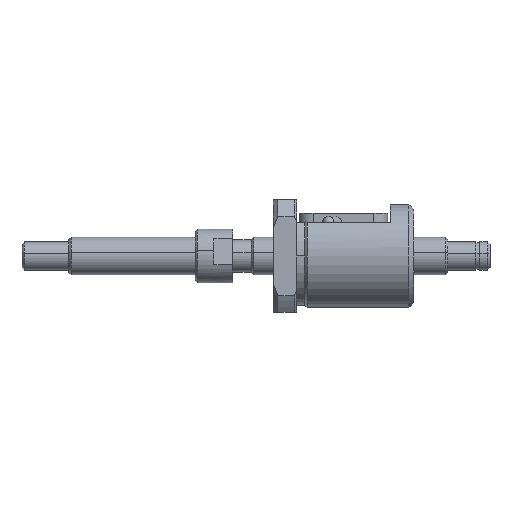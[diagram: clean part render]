
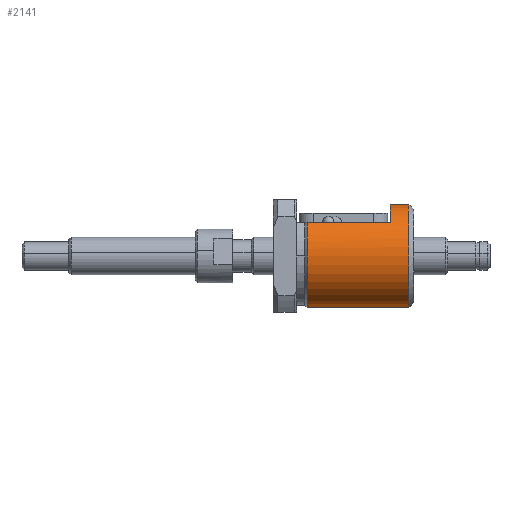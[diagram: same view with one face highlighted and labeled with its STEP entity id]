
A CAD part, front view. The second image highlights one B-rep face of the part: STEP entity #2141.
In plain terms, the highlighted cylindrical face has radius 11 mm (diameter 22 mm), a partial arc.
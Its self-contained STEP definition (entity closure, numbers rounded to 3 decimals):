
#112 = DIRECTION ( 'NONE',  ( 1., 0., 0. ) ) ;
#245 = AXIS2_PLACEMENT_3D ( 'NONE', #4056, #3909, #2032 ) ;
#277 = AXIS2_PLACEMENT_3D ( 'NONE', #2531, #596, #2568 ) ;
#518 = AXIS2_PLACEMENT_3D ( 'NONE', #2410, #1404, #1724 ) ;
#572 = CYLINDRICAL_SURFACE ( 'NONE', #518, 11. ) ;
#584 = EDGE_CURVE ( 'NONE', #3837, #1711, #1077, .T. ) ;
#596 = DIRECTION ( 'NONE',  ( 1., 0., 0. ) ) ;
#621 = CIRCLE ( 'NONE', #3519, 11. ) ;
#648 = EDGE_CURVE ( 'NONE', #1711, #1607, #3337, .T. ) ;
#688 = CARTESIAN_POINT ( 'NONE',  ( 29., 0., -11. ) ) ;
#773 = CARTESIAN_POINT ( 'NONE',  ( 25., 0., 11. ) ) ;
#788 = DIRECTION ( 'NONE',  ( -1., 0., 0. ) ) ;
#1038 = CARTESIAN_POINT ( 'NONE',  ( 29., 0., 11. ) ) ;
#1046 = CARTESIAN_POINT ( 'NONE',  ( 4.5, -8.334, 7.18 ) ) ;
#1077 = CIRCLE ( 'NONE', #277, 11. ) ;
#1155 = CARTESIAN_POINT ( 'NONE',  ( 7.234, 0., -11. ) ) ;
#1182 = CARTESIAN_POINT ( 'NONE',  ( 29., 0., 0. ) ) ;
#1257 = CIRCLE ( 'NONE', #2299, 11. ) ;
#1277 = ORIENTED_EDGE ( 'NONE', *, *, #2340, .F. ) ;
#1333 = CARTESIAN_POINT ( 'NONE',  ( 7.234, -8.334, 7.18 ) ) ;
#1404 = DIRECTION ( 'NONE',  ( -1., 0., 0. ) ) ;
#1494 = DIRECTION ( 'NONE',  ( 0., 0., -1. ) ) ;
#1512 = FACE_OUTER_BOUND ( 'NONE', #3565, .T. ) ;
#1607 = VERTEX_POINT ( 'NONE', #1155 ) ;
#1620 = CARTESIAN_POINT ( 'NONE',  ( 25., -8.334, 7.18 ) ) ;
#1690 = LINE ( 'NONE', #1046, #3416 ) ;
#1711 = VERTEX_POINT ( 'NONE', #2970 ) ;
#1721 = ORIENTED_EDGE ( 'NONE', *, *, #2146, .T. ) ;
#1724 = DIRECTION ( 'NONE',  ( 0., 0., 1. ) ) ;
#1843 = DIRECTION ( 'NONE',  ( 1., 0., 0. ) ) ;
#1905 = LINE ( 'NONE', #3805, #3509 ) ;
#1989 = EDGE_CURVE ( 'NONE', #3731, #3913, #621, .T. ) ;
#2022 = EDGE_CURVE ( 'NONE', #2124, #2978, #1257, .T. ) ;
#2032 = DIRECTION ( 'NONE',  ( 0., 1., 0. ) ) ;
#2054 = EDGE_CURVE ( 'NONE', #3731, #1607, #1905, .T. ) ;
#2124 = VERTEX_POINT ( 'NONE', #773 ) ;
#2141 = ADVANCED_FACE ( 'NONE', ( #1512 ), #572, .T. ) ;
#2146 = EDGE_CURVE ( 'NONE', #3913, #2124, #2276, .T. ) ;
#2276 = LINE ( 'NONE', #3052, #3823 ) ;
#2299 = AXIS2_PLACEMENT_3D ( 'NONE', #3743, #1843, #4054 ) ;
#2340 = EDGE_CURVE ( 'NONE', #3837, #2978, #1690, .T. ) ;
#2410 = CARTESIAN_POINT ( 'NONE',  ( 30., 0., 0. ) ) ;
#2531 = CARTESIAN_POINT ( 'NONE',  ( 7.234, 0., 0. ) ) ;
#2568 = DIRECTION ( 'NONE',  ( 0., 1., 0. ) ) ;
#2620 = ORIENTED_EDGE ( 'NONE', *, *, #1989, .T. ) ;
#2663 = DIRECTION ( 'NONE',  ( -1., 0., 0. ) ) ;
#2836 = ORIENTED_EDGE ( 'NONE', *, *, #584, .T. ) ;
#2970 = CARTESIAN_POINT ( 'NONE',  ( 7.234, -11., 0. ) ) ;
#2978 = VERTEX_POINT ( 'NONE', #1620 ) ;
#3052 = CARTESIAN_POINT ( 'NONE',  ( 30., 0., 11. ) ) ;
#3337 = CIRCLE ( 'NONE', #245, 11. ) ;
#3390 = ORIENTED_EDGE ( 'NONE', *, *, #2054, .F. ) ;
#3416 = VECTOR ( 'NONE', #112, 1000. ) ;
#3426 = DIRECTION ( 'NONE',  ( -1., 0., 0. ) ) ;
#3509 = VECTOR ( 'NONE', #2663, 1000. ) ;
#3519 = AXIS2_PLACEMENT_3D ( 'NONE', #1182, #3426, #1494 ) ;
#3565 = EDGE_LOOP ( 'NONE', ( #3390, #2620, #1721, #3714, #1277, #2836, #3617 ) ) ;
#3617 = ORIENTED_EDGE ( 'NONE', *, *, #648, .T. ) ;
#3714 = ORIENTED_EDGE ( 'NONE', *, *, #2022, .T. ) ;
#3731 = VERTEX_POINT ( 'NONE', #688 ) ;
#3743 = CARTESIAN_POINT ( 'NONE',  ( 25., 0., 0. ) ) ;
#3805 = CARTESIAN_POINT ( 'NONE',  ( 30., 0., -11. ) ) ;
#3823 = VECTOR ( 'NONE', #788, 1000. ) ;
#3837 = VERTEX_POINT ( 'NONE', #1333 ) ;
#3909 = DIRECTION ( 'NONE',  ( 1., 0., 0. ) ) ;
#3913 = VERTEX_POINT ( 'NONE', #1038 ) ;
#4054 = DIRECTION ( 'NONE',  ( 0., 0., -1. ) ) ;
#4056 = CARTESIAN_POINT ( 'NONE',  ( 7.234, 0., 0. ) ) ;
